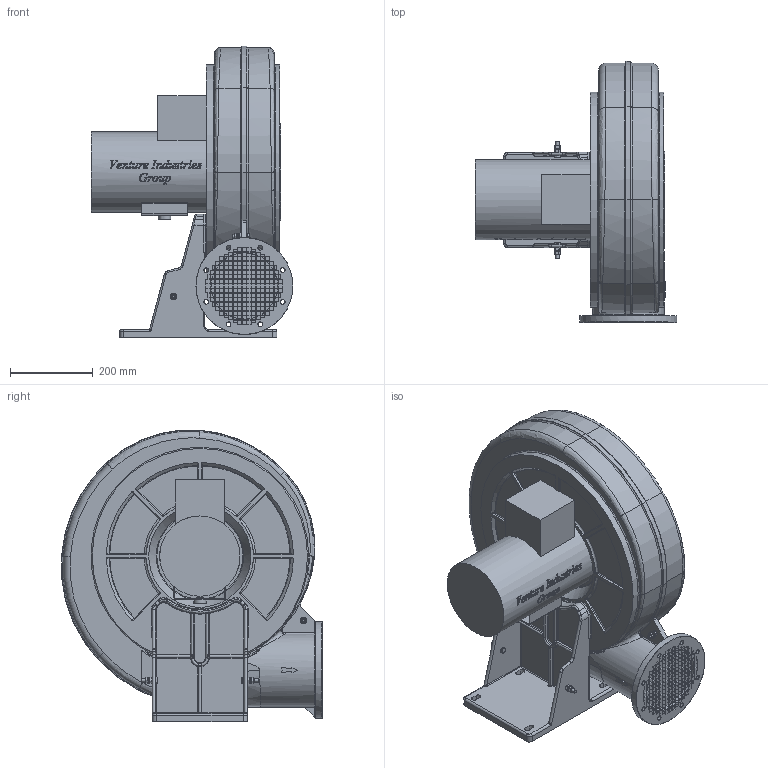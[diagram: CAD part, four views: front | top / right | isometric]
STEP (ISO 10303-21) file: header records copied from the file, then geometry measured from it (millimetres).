
FILE_DESCRIPTION(/* description */ (''),/* implementation_level */ '2;1');
FILE_NAME(/* name */ 'E:\Mariusz\Modele uproszczone\EBA\EBA 400\EBA_X_400X LG270 45519700\EBA_X_400X LG270 45519700.stp',/* time_stamp */ '2020-01-30T14:27:26+01:00',/* author */ ('M.Janczarek'),/* organization */ (''),/* preprocessor_version */ 'ST-DEVELOPER v16.13',/* originating_system */ 'Autodesk Inventor 2018',/* authorisation */ '');
FILE_SCHEMA (('AUTOMOTIVE_DESIGN { 1 0 10303 214 3 1 1 }'));
Products named in the file (1): EBA_X_400X LG270 45519700
Bounding box: 487.25 x 629.99 x 703.96 mm (x, y, z)
Surface area: 1823589.1 mm2
Topology: 2 solids, 3 shells, 3537 faces, 9850 edges, 6340 vertices
Faces by surface type: plane 2281, bspline 784, cylinder 284, torus 88, cone 66, sphere 34
Full cylindrical faces by diameter (mm): 4.917 x8, 6.647 x1, 7.1 x8, 8 x4, 8.4 x2, 11.1 x8, 11.4 x3, 11.5 x8, 15 x1, 15.2 x1, 16 x4, 30 x1, 160 x1, 193.8 x1, 234 x4, 520 x2
Entity records: 134188 total; most frequent: CARTESIAN_POINT 44022, ORIENTED_EDGE 19418, DIRECTION 15131, EDGE_CURVE 9705, LINE 7005, VECTOR 7005, VERTEX_POINT 6316, EDGE_LOOP 4485
